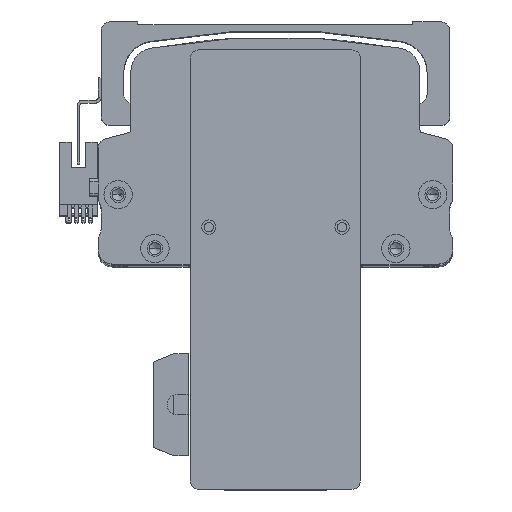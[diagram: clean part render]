
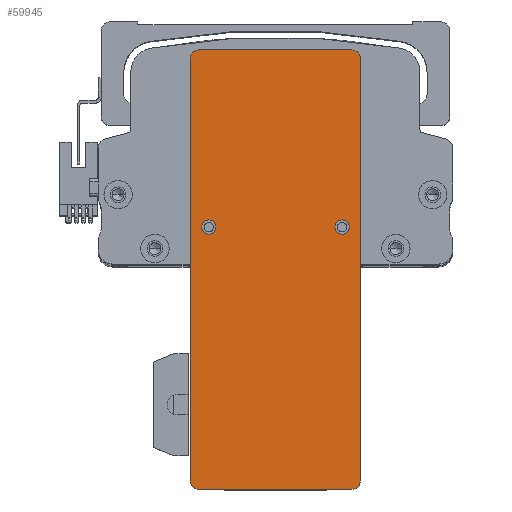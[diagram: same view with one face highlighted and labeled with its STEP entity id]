
A CAD part, top view. The second image highlights one B-rep face of the part: STEP entity #59945.
In plain terms, the highlighted planar face has unit normal (0, 0, 1) as drawn and (0, 0, -1) by its records, which use the part's own axes.
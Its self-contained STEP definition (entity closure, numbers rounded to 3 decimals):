
#445 = ORIENTED_EDGE ( 'NONE', *, *, #64533, .F. ) ;
#2721 = DIRECTION ( 'NONE',  ( -1., 0., 0. ) ) ;
#2774 = EDGE_CURVE ( 'NONE', #29602, #58763, #34650, .T. ) ;
#2817 = ORIENTED_EDGE ( 'NONE', *, *, #2774, .F. ) ;
#2873 = VECTOR ( 'NONE', #24342, 1000. ) ;
#3636 = CARTESIAN_POINT ( 'NONE',  ( 15., 23.5, 0. ) ) ;
#4146 = ORIENTED_EDGE ( 'NONE', *, *, #69826, .F. ) ;
#4824 = CARTESIAN_POINT ( 'NONE',  ( -74.5, -30., 0. ) ) ;
#4874 = DIRECTION ( 'NONE',  ( -1., 0., 0. ) ) ;
#5922 = DIRECTION ( 'NONE',  ( 0., 0., -1. ) ) ;
#6035 = CARTESIAN_POINT ( 'NONE',  ( 15., 23.5, 0. ) ) ;
#6616 = CIRCLE ( 'NONE', #20058, 2.5 ) ;
#6841 = CIRCLE ( 'NONE', #30662, 3. ) ;
#6983 = AXIS2_PLACEMENT_3D ( 'NONE', #27653, #69584, #33674 ) ;
#7484 = CIRCLE ( 'NONE', #15167, 2.5 ) ;
#7603 = VERTEX_POINT ( 'NONE', #52841 ) ;
#7987 = AXIS2_PLACEMENT_3D ( 'NONE', #60321, #24458, #66336 ) ;
#9602 = DIRECTION ( 'NONE',  ( -1., 0., 0. ) ) ;
#9604 = ORIENTED_EDGE ( 'NONE', *, *, #49063, .F. ) ;
#11649 = VECTOR ( 'NONE', #76550, 1000. ) ;
#12009 = DIRECTION ( 'NONE',  ( -1., 0., 0. ) ) ;
#15167 = AXIS2_PLACEMENT_3D ( 'NONE', #74419, #38478, #2721 ) ;
#16111 = VERTEX_POINT ( 'NONE', #60350 ) ;
#16175 = FACE_BOUND ( 'NONE', #66005, .T. ) ;
#16918 = CARTESIAN_POINT ( 'NONE',  ( 12.5, 23.5, 0. ) ) ;
#16973 = VERTEX_POINT ( 'NONE', #58639 ) ;
#17166 = ORIENTED_EDGE ( 'NONE', *, *, #51316, .F. ) ;
#17562 = DIRECTION ( 'NONE',  ( 0., 0., -1. ) ) ;
#18090 = FACE_BOUND ( 'NONE', #54277, .T. ) ;
#18907 = CARTESIAN_POINT ( 'NONE',  ( 74.5, 30., 0. ) ) ;
#20058 = AXIS2_PLACEMENT_3D ( 'NONE', #76563, #40655, #4874 ) ;
#20615 = AXIS2_PLACEMENT_3D ( 'NONE', #67941, #32026, #73924 ) ;
#21130 = LINE ( 'NONE', #28502, #51065 ) ;
#22697 = EDGE_CURVE ( 'NONE', #52343, #26490, #27253, .T. ) ;
#23539 = CARTESIAN_POINT ( 'NONE',  ( -74.5, 30., 0. ) ) ;
#24342 = DIRECTION ( 'NONE',  ( 0., 1., 0. ) ) ;
#24458 = DIRECTION ( 'NONE',  ( 0., 0., -1. ) ) ;
#26418 = LINE ( 'NONE', #53854, #68563 ) ;
#26490 = VERTEX_POINT ( 'NONE', #68229 ) ;
#26827 = CIRCLE ( 'NONE', #47891, 3. ) ;
#27253 = CIRCLE ( 'NONE', #6983, 3. ) ;
#27280 = CIRCLE ( 'NONE', #67056, 2.5 ) ;
#27653 = CARTESIAN_POINT ( 'NONE',  ( -74.5, -27., 0. ) ) ;
#28502 = CARTESIAN_POINT ( 'NONE',  ( 77.5, 30., 0. ) ) ;
#29602 = VERTEX_POINT ( 'NONE', #73218 ) ;
#29774 = EDGE_CURVE ( 'NONE', #16111, #16973, #6616, .T. ) ;
#30662 = AXIS2_PLACEMENT_3D ( 'NONE', #41711, #5922, #47749 ) ;
#31209 = VERTEX_POINT ( 'NONE', #59546 ) ;
#32026 = DIRECTION ( 'NONE',  ( 0., 0., 1. ) ) ;
#32305 = VERTEX_POINT ( 'NONE', #23539 ) ;
#33674 = DIRECTION ( 'NONE',  ( 1., 0., 0. ) ) ;
#34511 = DIRECTION ( 'NONE',  ( -1., 0., 0. ) ) ;
#34650 = LINE ( 'NONE', #35782, #2873 ) ;
#35782 = CARTESIAN_POINT ( 'NONE',  ( 77.5, -30., 0. ) ) ;
#36115 = CIRCLE ( 'NONE', #56389, 2.5 ) ;
#36636 = EDGE_CURVE ( 'NONE', #31209, #37142, #36115, .T. ) ;
#37134 = EDGE_CURVE ( 'NONE', #52343, #51100, #57612, .T. ) ;
#37142 = VERTEX_POINT ( 'NONE', #16918 ) ;
#38478 = DIRECTION ( 'NONE',  ( 0., 0., -1. ) ) ;
#40655 = DIRECTION ( 'NONE',  ( 0., 0., -1. ) ) ;
#41711 = CARTESIAN_POINT ( 'NONE',  ( -74.5, 27., 0. ) ) ;
#42303 = VERTEX_POINT ( 'NONE', #18907 ) ;
#45419 = DIRECTION ( 'NONE',  ( 0., 0., -1. ) ) ;
#47749 = DIRECTION ( 'NONE',  ( 1., 0., 0. ) ) ;
#47881 = DIRECTION ( 'NONE',  ( 0., 0., -1. ) ) ;
#47891 = AXIS2_PLACEMENT_3D ( 'NONE', #53387, #17562, #59436 ) ;
#48848 = ORIENTED_EDGE ( 'NONE', *, *, #62416, .T. ) ;
#49063 = EDGE_CURVE ( 'NONE', #16973, #16111, #7484, .T. ) ;
#49869 = FACE_OUTER_BOUND ( 'NONE', #63093, .T. ) ;
#51065 = VECTOR ( 'NONE', #34511, 1000. ) ;
#51100 = VERTEX_POINT ( 'NONE', #74117 ) ;
#51316 = EDGE_CURVE ( 'NONE', #42303, #32305, #21130, .T. ) ;
#51486 = ORIENTED_EDGE ( 'NONE', *, *, #22697, .T. ) ;
#52075 = ORIENTED_EDGE ( 'NONE', *, *, #37134, .F. ) ;
#52343 = VERTEX_POINT ( 'NONE', #4824 ) ;
#52841 = CARTESIAN_POINT ( 'NONE',  ( -77.5, 27., 0. ) ) ;
#52927 = CARTESIAN_POINT ( 'NONE',  ( 77.5, 27., 0. ) ) ;
#53387 = CARTESIAN_POINT ( 'NONE',  ( 74.5, 27., 0. ) ) ;
#53854 = CARTESIAN_POINT ( 'NONE',  ( -77.5, -30., 0. ) ) ;
#54008 = EDGE_CURVE ( 'NONE', #7603, #32305, #6841, .T. ) ;
#54277 = EDGE_LOOP ( 'NONE', ( #4146, #76605 ) ) ;
#55247 = ORIENTED_EDGE ( 'NONE', *, *, #29774, .F. ) ;
#56389 = AXIS2_PLACEMENT_3D ( 'NONE', #3636, #45419, #9602 ) ;
#57612 = LINE ( 'NONE', #70057, #11649 ) ;
#58639 = CARTESIAN_POINT ( 'NONE',  ( 17.5, -23.5, 0. ) ) ;
#58763 = VERTEX_POINT ( 'NONE', #52927 ) ;
#59436 = DIRECTION ( 'NONE',  ( 1., 0., 0. ) ) ;
#59546 = CARTESIAN_POINT ( 'NONE',  ( 17.5, 23.5, 0. ) ) ;
#59945 = ADVANCED_FACE ( 'NONE', ( #18090, #16175, #49869 ), #67415, .F. ) ;
#60321 = CARTESIAN_POINT ( 'NONE',  ( 74.5, -27., 0. ) ) ;
#60350 = CARTESIAN_POINT ( 'NONE',  ( 12.5, -23.5, 0. ) ) ;
#62416 = EDGE_CURVE ( 'NONE', #42303, #58763, #26827, .T. ) ;
#63093 = EDGE_LOOP ( 'NONE', ( #2817, #66404, #52075, #51486, #445, #68177, #17166, #48848 ) ) ;
#64533 = EDGE_CURVE ( 'NONE', #7603, #26490, #26418, .T. ) ;
#65157 = EDGE_CURVE ( 'NONE', #29602, #51100, #75895, .T. ) ;
#66005 = EDGE_LOOP ( 'NONE', ( #55247, #9604 ) ) ;
#66336 = DIRECTION ( 'NONE',  ( 1., 0., 0. ) ) ;
#66404 = ORIENTED_EDGE ( 'NONE', *, *, #65157, .T. ) ;
#67056 = AXIS2_PLACEMENT_3D ( 'NONE', #6035, #47881, #12009 ) ;
#67415 = PLANE ( 'NONE',  #20615 ) ;
#67941 = CARTESIAN_POINT ( 'NONE',  ( 0., 0., 0. ) ) ;
#68177 = ORIENTED_EDGE ( 'NONE', *, *, #54008, .T. ) ;
#68229 = CARTESIAN_POINT ( 'NONE',  ( -77.5, -27., 0. ) ) ;
#68563 = VECTOR ( 'NONE', #77656, 1000. ) ;
#69584 = DIRECTION ( 'NONE',  ( 0., 0., -1. ) ) ;
#69826 = EDGE_CURVE ( 'NONE', #37142, #31209, #27280, .T. ) ;
#70057 = CARTESIAN_POINT ( 'NONE',  ( 77.5, -30., 0. ) ) ;
#73218 = CARTESIAN_POINT ( 'NONE',  ( 77.5, -27., 0. ) ) ;
#73924 = DIRECTION ( 'NONE',  ( 1., 0., 0. ) ) ;
#74117 = CARTESIAN_POINT ( 'NONE',  ( 74.5, -30., 0. ) ) ;
#74419 = CARTESIAN_POINT ( 'NONE',  ( 15., -23.5, 0. ) ) ;
#75895 = CIRCLE ( 'NONE', #7987, 3. ) ;
#76550 = DIRECTION ( 'NONE',  ( 1., 0., 0. ) ) ;
#76563 = CARTESIAN_POINT ( 'NONE',  ( 15., -23.5, 0. ) ) ;
#76605 = ORIENTED_EDGE ( 'NONE', *, *, #36636, .F. ) ;
#77656 = DIRECTION ( 'NONE',  ( 0., -1., 0. ) ) ;
